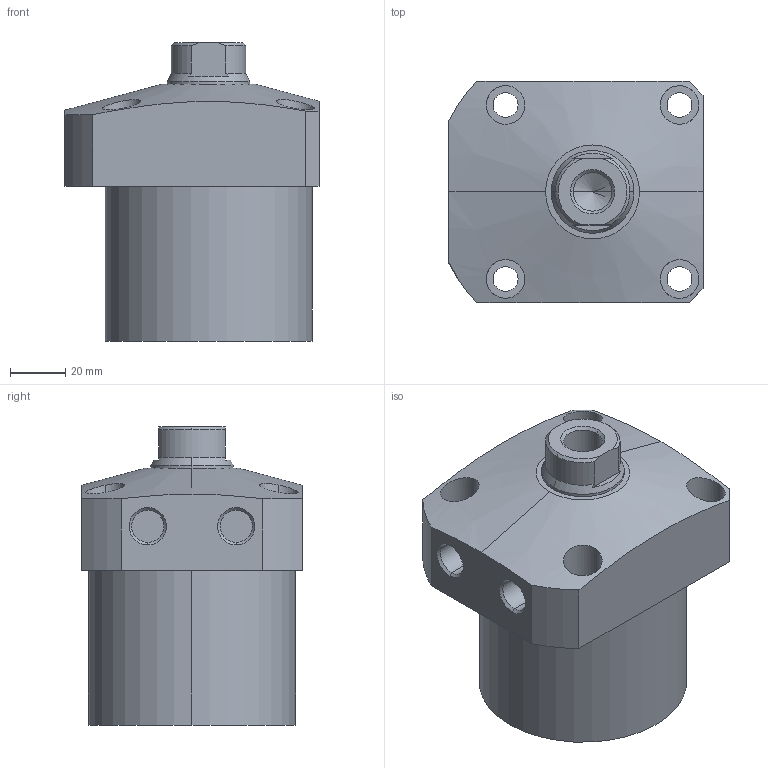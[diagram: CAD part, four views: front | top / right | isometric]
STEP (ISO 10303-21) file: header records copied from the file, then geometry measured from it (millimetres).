
FILE_DESCRIPTION (( 'STEP AP203' ), '1' );
FILE_NAME ('CLL-075CA-040.STEP', '2019-12-20T05:45:35', ( '' ), ( '' ), 'SwSTEP 2.0', 'SolidWorks 2015', '' );
FILE_SCHEMA (( 'CONFIG_CONTROL_DESIGN' ));
Length unit declared in the file: millimetre
Products named in the file (1): CLL-075CA-040
Bounding box: 92 x 80 x 108 mm (x, y, z)
Volume: 470098.6 mm3; surface area: 44470.5 mm2
Topology: 1 solids, 1 shells, 72 faces, 169 edges, 108 vertices
Faces by surface type: cylinder 35, plane 22, cone 15
Entity records: 2557 total; most frequent: CARTESIAN_POINT 792, DIRECTION 366, ORIENTED_EDGE 334, EDGE_CURVE 167, AXIS2_PLACEMENT_3D 150, VERTEX_POINT 108, EDGE_LOOP 91, CIRCLE 77
